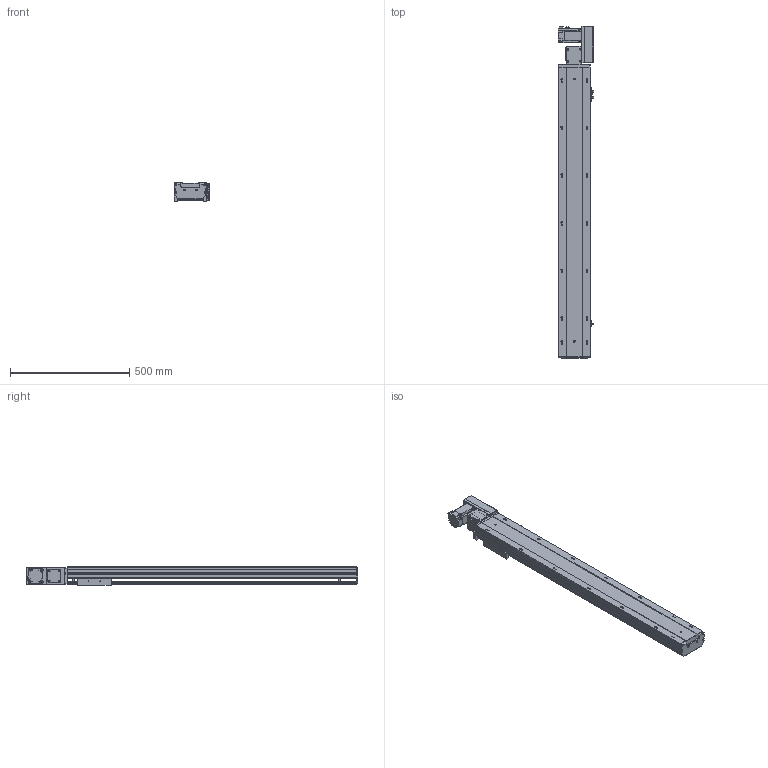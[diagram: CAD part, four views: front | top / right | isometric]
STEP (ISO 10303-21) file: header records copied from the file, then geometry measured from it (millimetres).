
FILE_DESCRIPTION (( 'STEP AP203' ), '1' );
FILE_NAME ('95.STEP', '2022-07-20T11:55:13', ( '' ), ( '' ), 'SwSTEP 2.0', 'SolidWorks 2016', '' );
FILE_SCHEMA (( 'CONFIG_CONTROL_DESIGN' ));
Length unit declared in the file: millimetre
Products named in the file (10): BTB14-L-23; BTB14-L-M40; BTB14-L-01; BTB14-L-24; BTB14-L-02; BTB14-L-HZ; BTB14-L-菁釱_XD; BTB14-L-06; BTB14-L-04; 95
Assembly tree (12 placements, depth 2):
  95
    BTB14-L-菁釱_XD
    BTB14-L-01
    BTB14-L-02
    BTB14-L-04  x3
    BTB14-L-06
    BTB14-L-23  x2
    BTB14-L-24
    BTB14-L-HZ
    BTB14-L-M40
Bounding box: 148.7 x 1393.5 x 78 mm (x, y, z)
Volume: 6075299.6 mm3; surface area: 1289583.2 mm2
Topology: 22 solids, 22 shells, 1618 faces, 4277 edges, 2728 vertices
Faces by surface type: plane 937, cylinder 464, cone 128, bspline 77, torus 12
Entity records: 42910 total; most frequent: CARTESIAN_POINT 10599, ORIENTED_EDGE 6468, DIRECTION 6420, EDGE_CURVE 3234, VECTOR 2206, LINE 2206, AXIS2_PLACEMENT_3D 2107, VERTEX_POINT 2106
